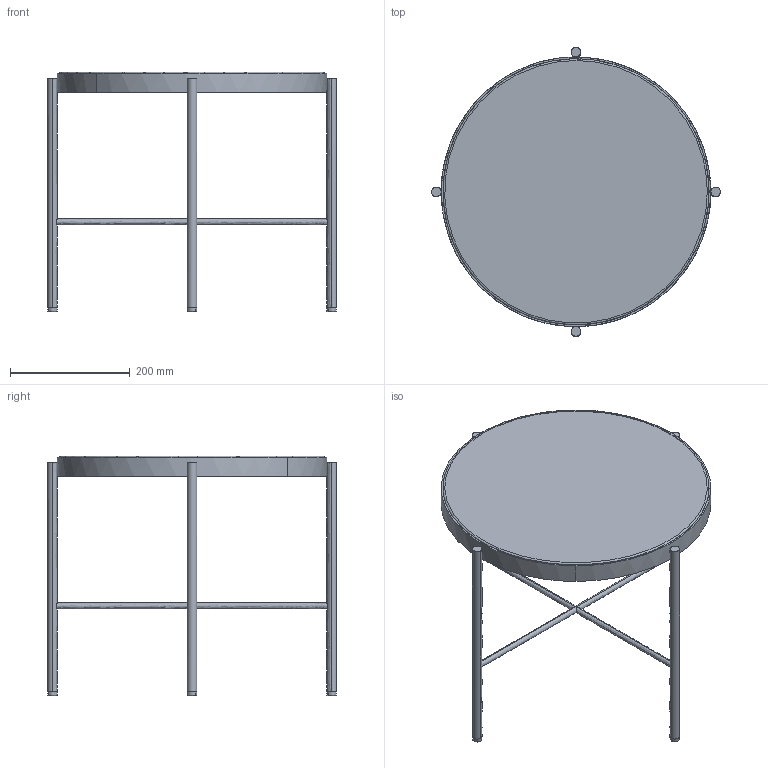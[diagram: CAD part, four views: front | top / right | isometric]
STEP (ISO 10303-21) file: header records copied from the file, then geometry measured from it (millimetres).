
FILE_DESCRIPTION(/* description */ (''),/* implementation_level */ '2;1');
FILE_NAME(/* name */ 'kinoshita_abord_at112-m',/* time_stamp */ '2025-08-27T18:48:36+09:00',/* author */ (''),/* organization */ (''),/* preprocessor_version */ 'ST-DEVELOPER v16.5',/* originating_system */ '',/* authorisation */ '');
FILE_SCHEMA (('AUTOMOTIVE_DESIGN'));
Length unit declared in the file: millimetre
Products named in the file (1): Document
Bounding box: 481.79 x 481.79 x 400 mm (x, y, z)
Volume: 5352428.4 mm3; surface area: 696098.1 mm2
Topology: 3 solids, 3 shells, 77 faces, 177 edges, 102 vertices
Faces by surface type: bspline 57, plane 20
Entity records: 3009 total; most frequent: CARTESIAN_POINT 1960, ORIENTED_EDGE 338, EDGE_CURVE 169, VERTEX_POINT 102, EDGE_LOOP 97, ADVANCED_FACE 77, FACE_OUTER_BOUND 77, B_SPLINE_CURVE_WITH_KNOTS 74
